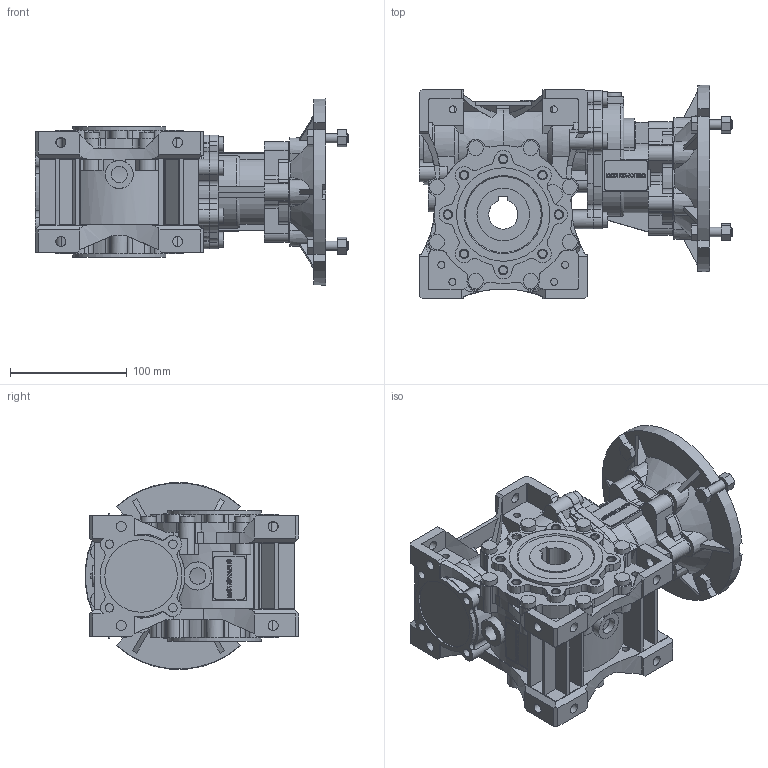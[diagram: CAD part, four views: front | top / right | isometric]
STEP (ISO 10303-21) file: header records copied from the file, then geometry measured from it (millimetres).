
FILE_DESCRIPTION(/* description */ ('STEP AP214'),/* implementation_level */ '2;1');
FILE_NAME(/* name */ 'NMRVP_HW 030-063 71.25 (4.75x15) 160x14 25 NO NO - - NO - - - NO NO - --(--------)',/* time_stamp */ '2024-10-07T11:52:52+02:00',/* author */ ('License CC BY-ND 4.0'),/* organization */ ('CADENAS'),/* preprocessor_version */ 'ST-DEVELOPER v19.3',/* originating_system */ 'PARTsolutions',/* authorisation */ ' ');
FILE_SCHEMA (('AUTOMOTIVE_DESIGN {1 0 10303 214 3 1 1}'));
Products named in the file (8): NMRVP/HW 030-063 71.25 (4.75x15) 160x14 25 NO NO - - NO - - - NO NO -
 --(--------); W.063.01.M; 063-25 (112); W.063.14.14.M-phw; 63-45; HW30; 6371 B5; PC.030.27.14.M
Assembly tree (7 placements, depth 2):
  NMRVP/HW 030-063 71.25 (4.75x15) 160x14 25 NO NO - - NO - - - NO NO -
 --(--------)
    W.063.01.M
    063-25 (112)
    W.063.14.14.M-phw
    63-45
    HW30
    6371 B5
    PC.030.27.14.M
Bounding box: 268.5 x 182.87 x 159.47 mm (x, y, z)
Volume: 2265356.9 mm3; surface area: 387845.5 mm2
Topology: 7 solids, 11 shells, 1973 faces, 5357 edges, 3540 vertices
Faces by surface type: plane 1152, cylinder 713, cone 102, torus 6
Full cylindrical faces by diameter (mm): 6 x12, 6.647 x16, 7.26 x12, 7.8 x1, 8 x8, 8.5 x14, 13 x14, 14 x3, 18 x1, 20 x1, 24 x1, 27 x1, 29 x1, 34 x1, 35 x2, 37 x1, 44 x1, 45 x3, 62 x3, 68 x4, 80 x2, 110 x1
Entity records: 75933 total; most frequent: CARTESIAN_POINT 11902, DIRECTION 10561, ORIENTED_EDGE 10396, EDGE_CURVE 5198, AXIS2_PLACEMENT_3D 3707, VERTEX_POINT 3514, LINE 3147, VECTOR 3147
